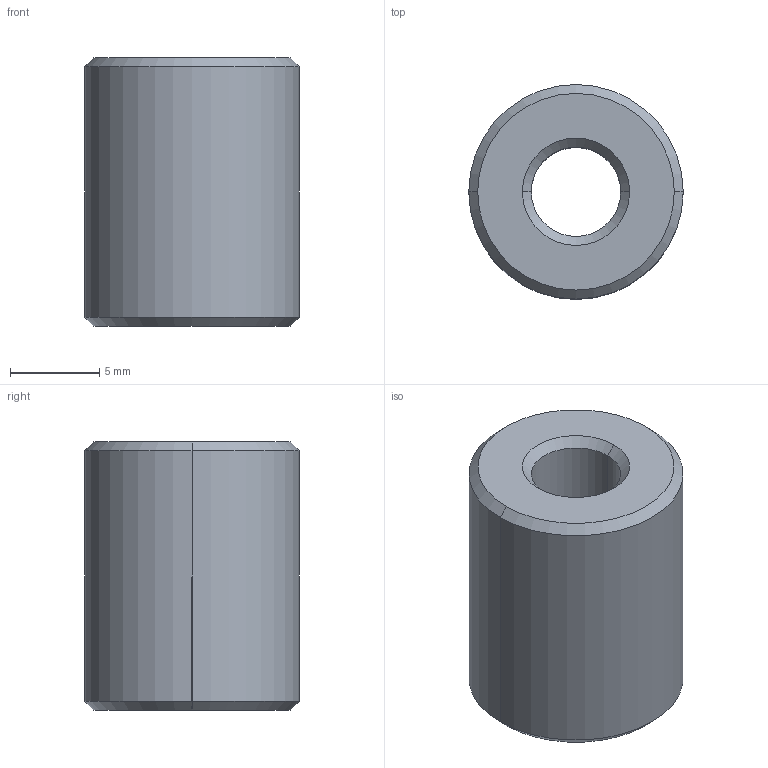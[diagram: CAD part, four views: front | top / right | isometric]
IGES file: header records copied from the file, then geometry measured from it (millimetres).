
Start section: 3D InterOp IGES (v. 2020 1.0.1), Spatial Corp. Copyright (c) 1999-2017.
Global section: file name: 951-2-g.igs; native system: Spatial Corp.; preprocessor: 3D InterOp ACIS/IGES; author: TraceParts; organization: TraceParts S.A.; date: 20231204.104747; units: millimetre
Bounding box: 12 x 12 x 15 mm (x, y, z)
Surface area: 956.7 mm2 (no closed solid volume)
Topology: 0 solids, 0 shells, 14 faces, 56 edges, 56 vertices
Faces by surface type: revolution 12, extrusion 2
